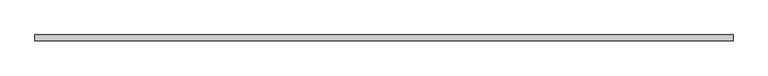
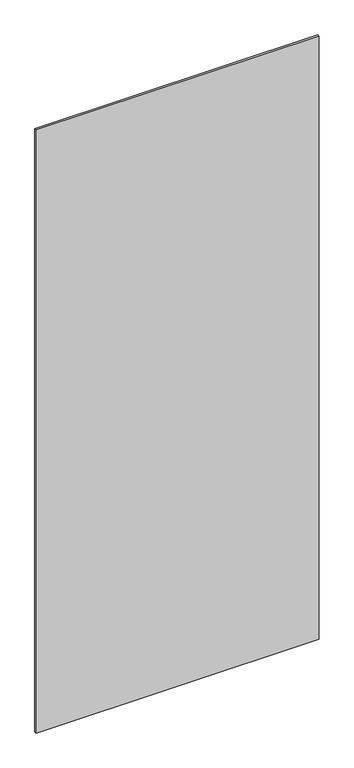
"""IFC4 building model written with IfcOpenShell, lengths in millimetres: plate geometry, 系統嵌板 : 玻璃 1.0cm."""

from ifc_helpers import new_model, si_unit, origin, origin_with_axes, place, context, project, spatial, polyline, outline, extrude, source, transform, mapped, element, save


def plate_a57f398c(model_context):
    return source(origin(), model_context, "Body", "SweptSolid", [
        extrude(outline(polyline([(610.5319245, -5.0), (-610.5319245, -5.0), (-610.5319245, 5.0), (610.5319245, 5.0), (610.5319245, -5.0)])), origin_with_axes(), (0.0, 0.0, 1.0), 2750.0),
    ])


if __name__ == "__main__":
    model = new_model("IFC4")
    model_context = context("Model", 3, world=origin())
    ifc_project = project(units=[si_unit("LENGTHUNIT", "METRE", prefix="MILLI")], contexts=[model_context])
    site = spatial("IfcSite", under=ifc_project)
    building = spatial("IfcBuilding", under=site)
    placement = place(None, origin())
    plate_shape = plate_a57f398c(model_context)
    element("IfcPlate", 1, ObjectType="系統嵌板 : 玻璃 1.0cm", at=placement, inside=building, context=model_context, shape_type="MappedRepresentation", body=[
        mapped(plate_shape, transform((0.0, 0.0, 0.0), x_axis=(1.0, 0.0, 0.0), y_axis=(0.0, 1.0, 0.0), z_axis=(0.0, 0.0, 1.0))),
    ])
    save(model, "model.ifc")
